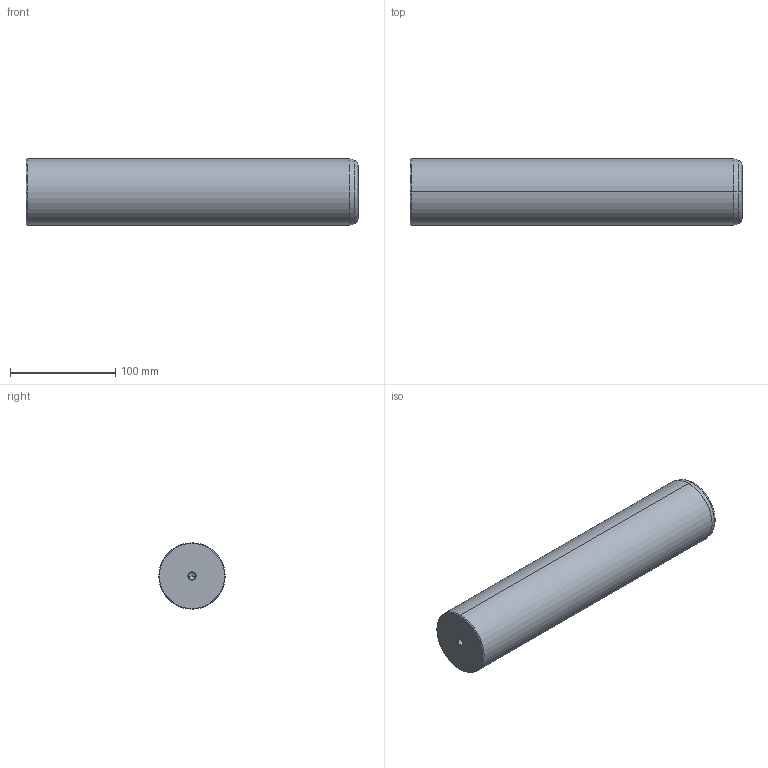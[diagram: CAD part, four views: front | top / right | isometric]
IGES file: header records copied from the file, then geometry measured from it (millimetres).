
Start section: START RECORD GO HERE.
Global section: file name: 720-63x315.igs; native system: DASSAULT SYSTEMES CATIA V5 R20 - www.3ds.com; preprocessor: CATIA Version 5 Release 20 ; author: Utente; organization: NB04-ASUS; date: 20201230.222827; units: millimetre
Bounding box: 315 x 63 x 63 mm (x, y, z)
Surface area: 68867.5 mm2 (no closed solid volume)
Topology: 0 solids, 0 shells, 22 faces, 120 edges, 116 vertices
Faces by surface type: revolution 20, plane 2
